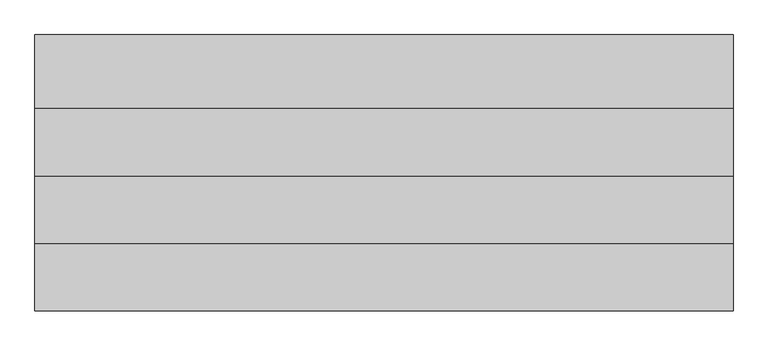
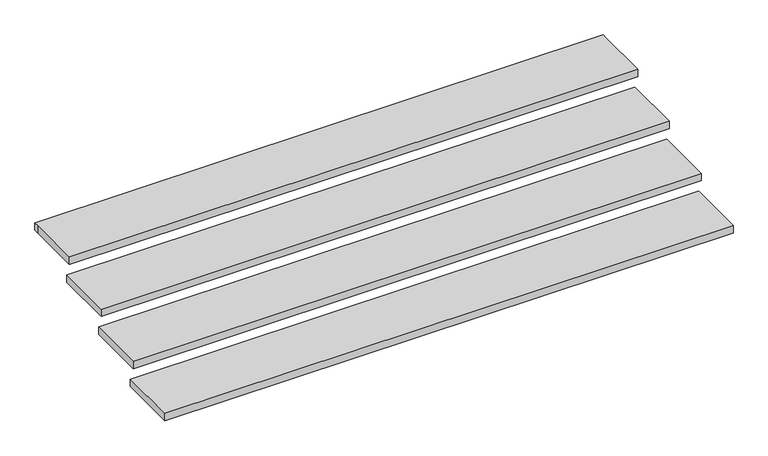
"""IFC4 building model written with IfcOpenShell, lengths in millimetres: stair flight geometry, Huellas: 50 mm Contrahuellas: 10 mm."""

from ifc_helpers import new_model, si_unit, frame, origin, place, context, project, spatial, polyline, outline, extrude, source, transform, mapped, element, save


def stair_flight_acde8ac0(model_context):
    return source(origin(), model_context, "Body", "SweptSolid", [
        extrude(outline(polyline([(-5995.8480416, -5336.9240046), (-2334.865283, -5336.9240046), (-2334.865283, -5721.9240046), (-5995.8480416, -5721.9240046), (-5995.8480416, -5336.9240046)])), frame((0.0, 0.0, 820.0), z_axis=(0.0, 0.0, 1.0), x_axis=(1.0, 0.0, 0.0)), (0.0, 0.0, 1.0), 50.0),
        extrude(outline(polyline([(-5995.8480416, -4981.9240046), (-2334.865283, -4981.9240046), (-2334.865283, -5366.9240046), (-5995.8480416, -5366.9240046), (-5995.8480416, -4981.9240046)])), frame((0.0, 0.0, 960.0), z_axis=(0.0, 0.0, 1.0), x_axis=(1.0, 0.0, 0.0)), (0.0, 0.0, 1.0), 50.0),
        extrude(outline(polyline([(-5995.8480416, -4626.9240046), (-2334.865283, -4626.9240046), (-2334.865283, -5011.9240046), (-5995.8480416, -5011.9240046), (-5995.8480416, -4626.9240046)])), frame((0.0, 0.0, 1100.0), z_axis=(0.0, 0.0, 1.0), x_axis=(1.0, 0.0, 0.0)), (0.0, 0.0, 1.0), 50.0),
        extrude(outline(polyline([(-5995.8480416, -4271.9240046), (-2334.865283, -4271.9240046), (-2334.865283, -4301.9240046), (-2334.865283, -4656.9240046), (-5995.8480416, -4656.9240046), (-5995.8480416, -4301.9240046), (-5995.8480416, -4271.9240046)])), frame((0.0, 0.0, 1240.0), z_axis=(0.0, 0.0, 1.0), x_axis=(1.0, 0.0, 0.0)), (0.0, 0.0, 1.0), 50.0),
    ])


if __name__ == "__main__":
    model = new_model("IFC4")
    model_context = context("Model", 3, world=origin())
    ifc_project = project(units=[si_unit("LENGTHUNIT", "METRE", prefix="MILLI")], contexts=[model_context])
    site = spatial("IfcSite", under=ifc_project)
    building = spatial("IfcBuilding", under=site)
    placement = place(None, origin())
    stair_flight_shape = stair_flight_acde8ac0(model_context)
    element("IfcStairFlight", 1, ObjectType="Huellas: 50 mm Contrahuellas: 10 mm", at=placement, inside=building, context=model_context, shape_type="MappedRepresentation", body=[
        mapped(stair_flight_shape, transform((0.0, 0.0, 0.0), x_axis=(1.0, 0.0, 0.0), y_axis=(0.0, 1.0, 0.0), z_axis=(0.0, 0.0, 1.0))),
    ])
    save(model, "model.ifc")
